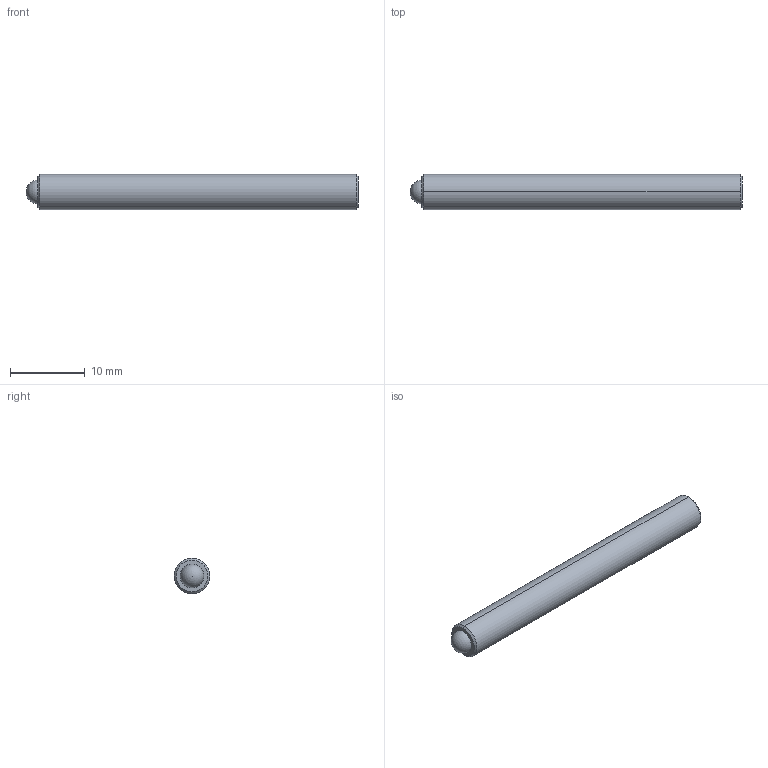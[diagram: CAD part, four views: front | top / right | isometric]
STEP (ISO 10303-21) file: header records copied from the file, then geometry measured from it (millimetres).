
FILE_DESCRIPTION (( 'STEP AP214' ), '1' );
FILE_NAME ('TS187-100-1750.STEP', '2013-02-11T16:02:57', ( 'workpc' ), ( 'Microsoft' ), 'SwSTEP 2.0', 'SolidWorks 2013', '' );
FILE_SCHEMA (( 'AUTOMOTIVE_DESIGN' ));
Length unit declared in the file: inch
Products named in the file (1): TS187-100-1750
Bounding box: 44.45 x 4.75 x 4.75 mm (x, y, z)
Volume: 754.9 mm3; surface area: 733.6 mm2
Topology: 2 solids, 2 shells, 20 faces, 45 edges, 29 vertices
Faces by surface type: plane 10, cylinder 4, cone 4, sphere 2
Entity records: 599 total; most frequent: DIRECTION 96, CARTESIAN_POINT 87, ORIENTED_EDGE 80, EDGE_CURVE 40, AXIS2_PLACEMENT_3D 35, LINE 26, VECTOR 26, VERTEX_POINT 26
